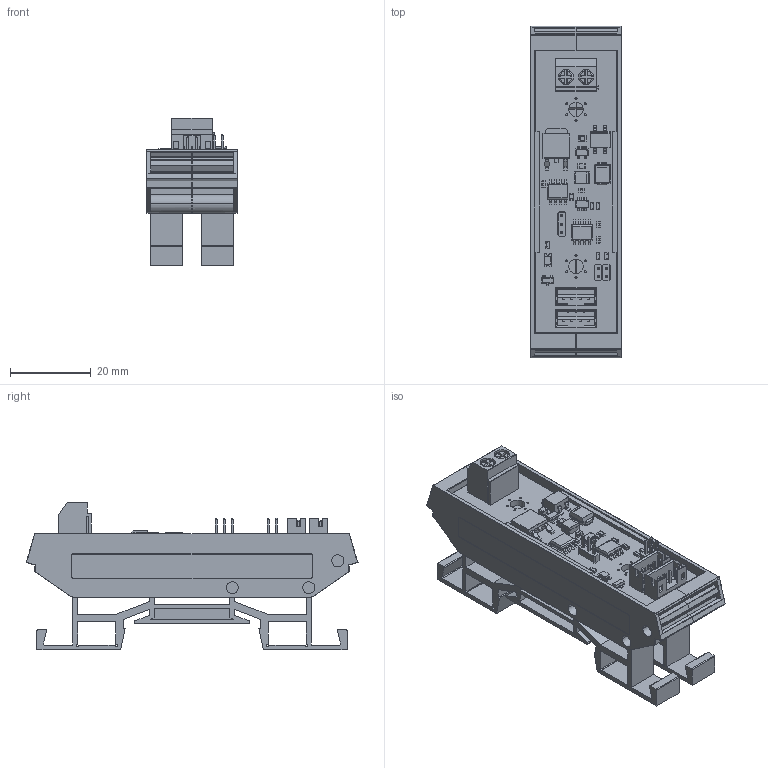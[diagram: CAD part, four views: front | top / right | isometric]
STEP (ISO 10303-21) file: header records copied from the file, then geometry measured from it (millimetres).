
FILE_DESCRIPTION(('Open CASCADE Model'),'2;1');
FILE_NAME('Open CASCADE Shape Model','2017-05-15T21:44:58',('Author'),( 'Open CASCADE'),'Open CASCADE STEP processor 6.8','Open CASCADE 6.8' ,'Unknown');
FILE_SCHEMA(('AUTOMOTIVE_DESIGN { 1 0 10303 214 1 1 1 1 }'));
Length unit declared in the file: millimetre
Products named in the file (49): PCB; Board; C4; B45196H-B; D2; MBxS; C1; GRM188; C2; C3; C5; GRM21B; C6; C7; D1; LTST-C150EKT; D3; SMBJP6KE39A; J1; 112504ST; J2; PHDS04G22; PHDS02G22_PHDS02G11; J3; DT-126VP-02P; J4; J5; PHSS03G20; Q1; FDN306P; Q2; MJD44H11; R1; MCR03; R2; R3; R4; R5; R6; U1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
Assembly tree (61 placements, depth 4):
  PCB
    Board
    C4
      B45196H-B
    D2
      MBxS
    C1
      GRM188
    C2
      GRM188
    C3
      GRM188
    C5
      GRM21B
    C6
      GRM21B
    C7
      GRM188
    D1
      LTST-C150EKT
    D3
      SMBJP6KE39A
    J1
      112504ST
    J2
      PHDS04G22
        PHDS02G22_PHDS02G11  x2
    J3
      DT-126VP-02P
    J4
      112504ST
    J5
      PHSS03G20
    Q1
      FDN306P
    Q2
      MJD44H11
    R1
      MCR03
    R2
      MCR03
    R3
      MCR03
    R4
      MCR03
    R5
      MCR03
    R6
      MCR03
    U1
      TPS783XXDDC
    U2
      MCP4725
    U3
      SN75176BDR
    U4
      SN75176BDR
    Free-Models
      BEF722000SS
        CIME-M_SEF1125SS  x2
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Bounding box: 22.5 x 82.44 x 36.69 mm (x, y, z)
Volume: 15965.5 mm3; surface area: 26045.2 mm2
Topology: 34 solids, 34 shells, 3928 faces, 9726 edges, 5743 vertices
Faces by surface type: plane 1886, cylinder 1430, torus 356, sphere 224, bspline 16, cone 12, revolution 4
Full cylindrical faces by diameter (mm): 0.5 x12, 0.85 x15, 1.5 x2, 3.6 x2
Entity records: 295736 total; most frequent: CARTESIAN_POINT 162475, DIRECTION 19552, ORIENTED_EDGE 12330, PCURVE 12330, DEFINITIONAL_REPRESENTATION 12330, LINE 9695, VECTOR 9695, EDGE_CURVE 6165
